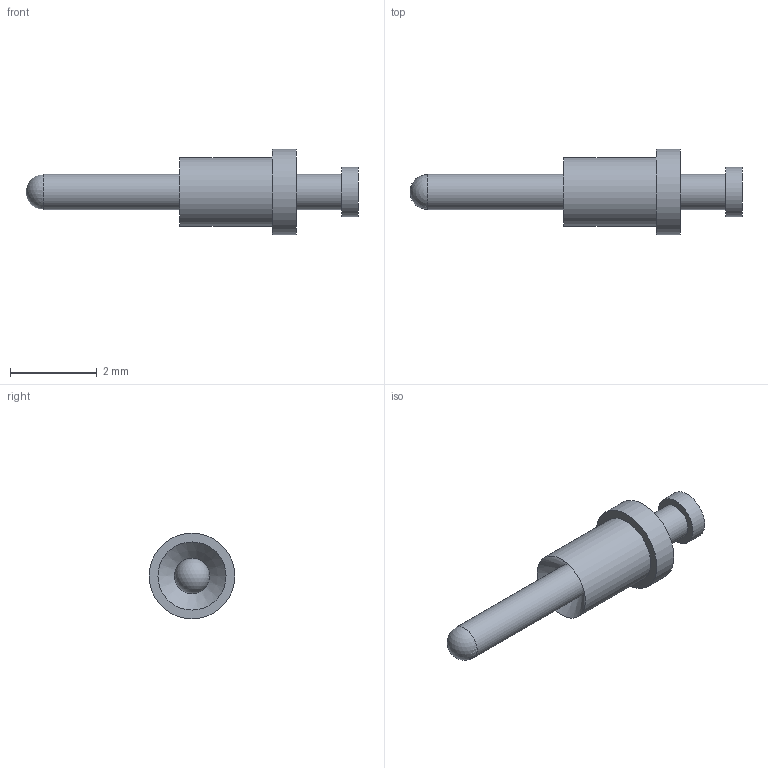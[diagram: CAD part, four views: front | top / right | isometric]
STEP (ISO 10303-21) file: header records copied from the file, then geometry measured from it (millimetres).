
FILE_DESCRIPTION(/* description */ (''),/* implementation_level */ '2;1');
FILE_NAME(/* name */ 'Z:\STEP folder\120-1032-02.ipt.stp',/* time_stamp */ '2016-12-07T10:26:57+00:00',/* author */ ('Paul Karlsons'),/* organization */ (''),/* preprocessor_version */ 'ST-DEVELOPER v15.2',/* originating_system */ 'Autodesk Inventor 2014',/* authorisation */ '');
FILE_SCHEMA (('AUTOMOTIVE_DESIGN { 1 0 10303 214 3 1 1 }'));
Length unit declared in the file: millimetre
Products named in the file (1): 120-1032-02
Bounding box: 7.67 x 1.98 x 1.98 mm (x, y, z)
Volume: 8.3 mm3; surface area: 35.3 mm2
Topology: 1 solids, 1 shells, 11 faces, 20 edges, 12 vertices
Faces by surface type: cylinder 5, plane 4, sphere 1, cone 1
Full cylindrical faces by diameter (mm): 0.812 x2, 1.143 x1, 1.574 x1, 1.98 x1
Entity records: 235 total; most frequent: DIRECTION 44, CARTESIAN_POINT 32, AXIS2_PLACEMENT_3D 22, EDGE_LOOP 20, ORIENTED_EDGE 20, ADVANCED_FACE 11, FACE_BOUND 10, FACE_OUTER_BOUND 10
